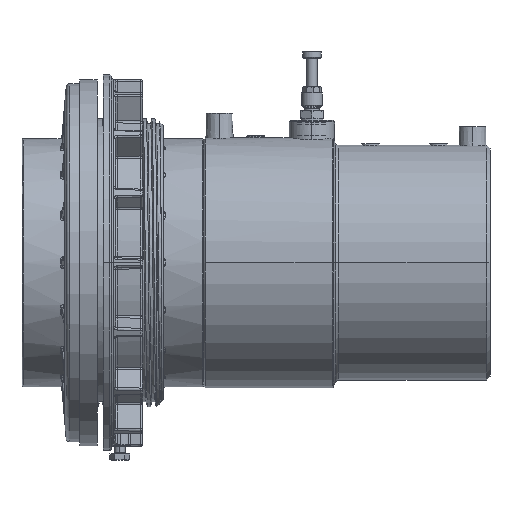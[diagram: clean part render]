
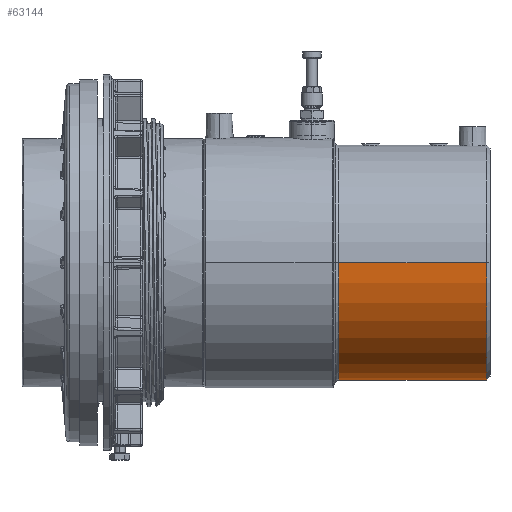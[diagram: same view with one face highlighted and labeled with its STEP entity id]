
A CAD part, left-side view. The second image highlights one B-rep face of the part: STEP entity #63144.
In plain terms, the highlighted cylindrical face has radius 67.25 mm (diameter 134.5 mm), a partial arc.
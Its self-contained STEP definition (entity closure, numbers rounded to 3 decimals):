
#12188 = LINE ( 'NONE', #12195, #50723 ) ;
#12195 = CARTESIAN_POINT ( 'NONE',  ( 51.351, -135.108, 2.394 ) ) ;
#12199 = LINE ( 'NONE', #12205, #50720 ) ;
#12204 = DIRECTION ( 'NONE',  ( 0., -1., 0. ) ) ;
#12205 = CARTESIAN_POINT ( 'NONE',  ( -83.149, -135.108, 2.394 ) ) ;
#12207 = DIRECTION ( 'NONE',  ( 0., -1., 0. ) ) ;
#23964 = CIRCLE ( 'NONE', #23967, 67.25 ) ;
#23967 = AXIS2_PLACEMENT_3D ( 'NONE', #83442, #84805, #84806 ) ;
#24218 = AXIS2_PLACEMENT_3D ( 'NONE', #86393, #86389, #86395 ) ;
#28446 = ORIENTED_EDGE ( 'NONE', *, *, #33710, .F. ) ;
#28448 = ORIENTED_EDGE ( 'NONE', *, *, #34269, .T. ) ;
#28450 = ORIENTED_EDGE ( 'NONE', *, *, #33709, .T. ) ;
#28452 = ORIENTED_EDGE ( 'NONE', *, *, #62386, .T. ) ;
#33049 = VERTEX_POINT ( 'NONE', #62130 ) ;
#33050 = VERTEX_POINT ( 'NONE', #62132 ) ;
#33062 = VERTEX_POINT ( 'NONE', #62165 ) ;
#33063 = VERTEX_POINT ( 'NONE', #62168 ) ;
#33709 = EDGE_CURVE ( 'NONE', #33062, #33049, #12188, .T. ) ;
#33710 = EDGE_CURVE ( 'NONE', #33063, #33050, #12199, .T. ) ;
#34269 = EDGE_CURVE ( 'NONE', #33063, #33062, #43325, .T. ) ;
#43325 = CIRCLE ( 'NONE', #43330, 67.25 ) ;
#43330 = AXIS2_PLACEMENT_3D ( 'NONE', #47063, #47065, #47067 ) ;
#47063 = CARTESIAN_POINT ( 'NONE',  ( -15.899, -44.123, 2.394 ) ) ;
#47065 = DIRECTION ( 'NONE',  ( 0., -1., 0. ) ) ;
#47067 = DIRECTION ( 'NONE',  ( 1., 0., 0. ) ) ;
#50720 = VECTOR ( 'NONE', #12207, 1000. ) ;
#50723 = VECTOR ( 'NONE', #12204, 1000. ) ;
#62130 = CARTESIAN_POINT ( 'NONE',  ( 51.351, -128.841, 2.394 ) ) ;
#62132 = CARTESIAN_POINT ( 'NONE',  ( -83.149, -128.841, 2.394 ) ) ;
#62165 = CARTESIAN_POINT ( 'NONE',  ( 51.351, -44.123, 2.394 ) ) ;
#62168 = CARTESIAN_POINT ( 'NONE',  ( -83.149, -44.123, 2.394 ) ) ;
#62386 = EDGE_CURVE ( 'NONE', #33049, #33050, #23964, .T. ) ;
#63144 = ADVANCED_FACE ( 'NONE', ( #86392 ), #86391, .T. ) ;
#72744 = EDGE_LOOP ( 'NONE', ( #28446, #28448, #28450, #28452 ) ) ;
#83442 = CARTESIAN_POINT ( 'NONE',  ( -15.899, -128.841, 2.394 ) ) ;
#84805 = DIRECTION ( 'NONE',  ( 0., 1., 0. ) ) ;
#84806 = DIRECTION ( 'NONE',  ( -1., 0., 0. ) ) ;
#86389 = DIRECTION ( 'NONE',  ( 0., -1., 0. ) ) ;
#86391 = CYLINDRICAL_SURFACE ( 'NONE', #24218, 67.25 ) ;
#86392 = FACE_OUTER_BOUND ( 'NONE', #72744, .T. ) ;
#86393 = CARTESIAN_POINT ( 'NONE',  ( -15.899, -135.108, 2.394 ) ) ;
#86395 = DIRECTION ( 'NONE',  ( 1., 0., 0. ) ) ;
